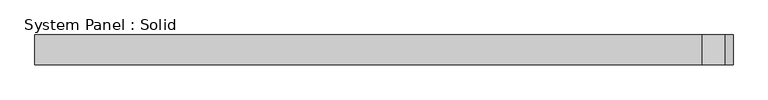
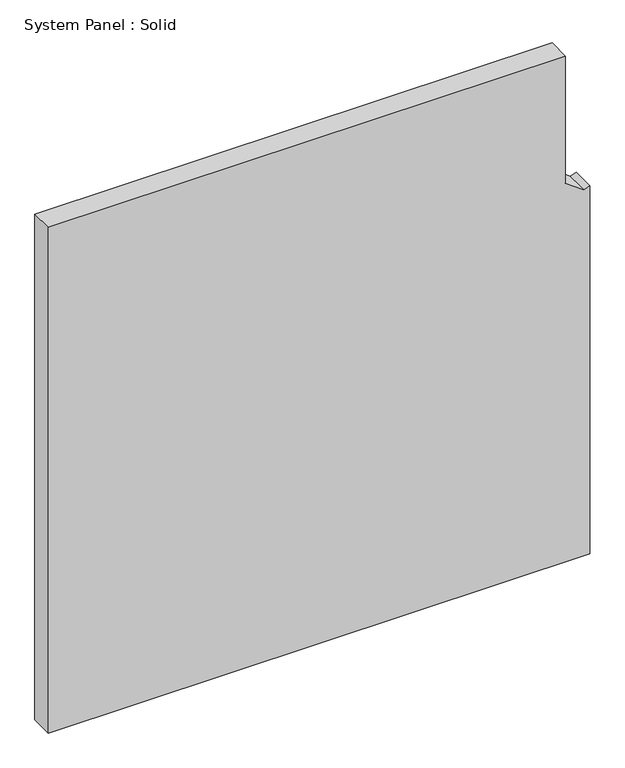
"""IFC4 building model written with IfcOpenShell, lengths in millimetres: plate geometry, System Panel : Solid."""

from ifc_helpers import new_model, si_unit, frame, origin, place, context, project, spatial, polyline, outline, extrude, source, transform, mapped, element, save


def system_panel_solid_79337ef0(model_context):
    return source(origin(), model_context, "Body", "SweptSolid", [
        extrude(outline(polyline([(0.0, -742.95), (0.0, 742.95), (1067.9140738, 742.95), (1062.4051663, 726.4232776), (1098.55, 676.2749997), (1466.85, 676.2749997), (1466.85, -742.95), (0.0, -742.95)])), frame((0.0, -19.05, 0.0), z_axis=(0.0, 1.0, 0.0), x_axis=(0.0, 0.0, 1.0)), (0.0, 0.0, 1.0), 63.5),
    ])


if __name__ == "__main__":
    model = new_model("IFC4")
    model_context = context("Model", 3, world=origin())
    ifc_project = project(units=[si_unit("LENGTHUNIT", "METRE", prefix="MILLI")], contexts=[model_context])
    site = spatial("IfcSite", under=ifc_project)
    building = spatial("IfcBuilding", under=site)
    placement = place(None, origin())
    system_panel_solid_shape = system_panel_solid_79337ef0(model_context)
    element("IfcPlate", 1, ObjectType="System Panel : Solid", at=placement, inside=building, context=model_context, shape_type="MappedRepresentation", body=[
        mapped(system_panel_solid_shape, transform((0.0, 0.0, 0.0), x_axis=(1.0, 0.0, 0.0), y_axis=(0.0, 1.0, 0.0), z_axis=(0.0, 0.0, 1.0))),
    ])
    save(model, "model.ifc")
